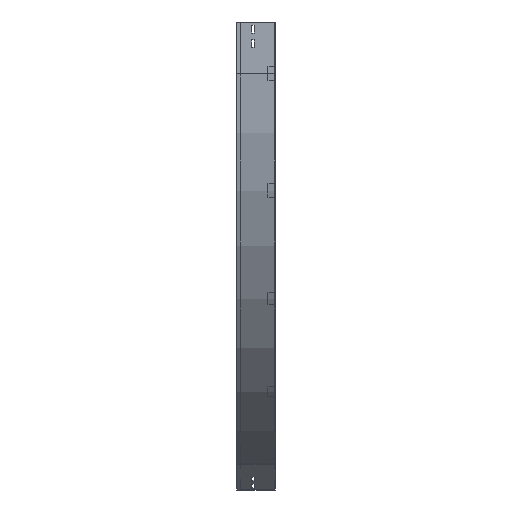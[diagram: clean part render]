
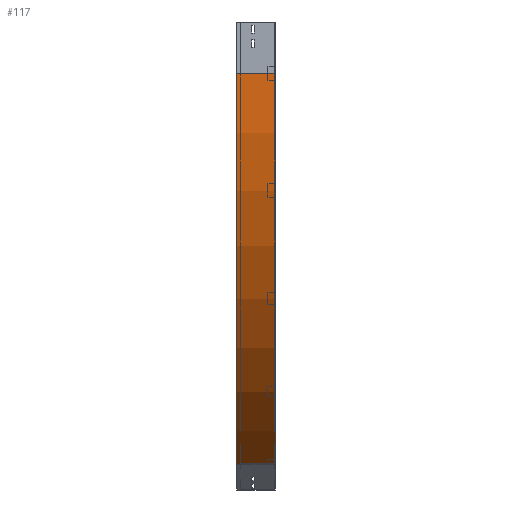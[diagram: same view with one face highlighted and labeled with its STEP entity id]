
A CAD part, left-side view. The second image highlights one B-rep face of the part: STEP entity #117.
In plain terms, the highlighted cylindrical face has radius 1300 mm (diameter 2600 mm), a partial arc.
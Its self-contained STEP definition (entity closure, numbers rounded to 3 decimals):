
#68 = DIRECTION ( 'NONE',  ( 0., -1., 0. ) ) ;
#85 = DIRECTION ( 'NONE',  ( 0., 0., -1. ) ) ;
#117 = ADVANCED_FACE ( 'NONE', ( #711 ), #1321, .T. ) ;
#129 = CARTESIAN_POINT ( 'NONE',  ( 0., 0., -150. ) ) ;
#461 = CARTESIAN_POINT ( 'NONE',  ( 650., 0., -1275.833 ) ) ;
#518 = ORIENTED_EDGE ( 'NONE', *, *, #2481, .F. ) ;
#580 = DIRECTION ( 'NONE',  ( 0., -1., 0. ) ) ;
#696 = CIRCLE ( 'NONE', #2446, 1300. ) ;
#711 = FACE_OUTER_BOUND ( 'NONE', #3734, .T. ) ;
#817 = CARTESIAN_POINT ( 'NONE',  ( 1300., 0., -150. ) ) ;
#917 = AXIS2_PLACEMENT_3D ( 'NONE', #817, #580, #2956 ) ;
#1004 = ORIENTED_EDGE ( 'NONE', *, *, #2428, .F. ) ;
#1321 = CYLINDRICAL_SURFACE ( 'NONE', #2279, 1300. ) ;
#1393 = LINE ( 'NONE', #461, #2706 ) ;
#1396 = ORIENTED_EDGE ( 'NONE', *, *, #2030, .T. ) ;
#1429 = VERTEX_POINT ( 'NONE', #2778 ) ;
#1488 = VERTEX_POINT ( 'NONE', #2929 ) ;
#1807 = DIRECTION ( 'NONE',  ( 0., -1., 0. ) ) ;
#2030 = EDGE_CURVE ( 'NONE', #1488, #3616, #696, .T. ) ;
#2152 = DIRECTION ( 'NONE',  ( -1., 0., 0. ) ) ;
#2172 = EDGE_CURVE ( 'NONE', #3616, #1429, #1393, .T. ) ;
#2260 = CARTESIAN_POINT ( 'NONE',  ( 650., 112.5, -1275.833 ) ) ;
#2279 = AXIS2_PLACEMENT_3D ( 'NONE', #3685, #2476, #85 ) ;
#2428 = EDGE_CURVE ( 'NONE', #2663, #1429, #2617, .T. ) ;
#2446 = AXIS2_PLACEMENT_3D ( 'NONE', #3563, #1807, #2152 ) ;
#2476 = DIRECTION ( 'NONE',  ( 0., -1., 0. ) ) ;
#2481 = EDGE_CURVE ( 'NONE', #1488, #2663, #3303, .T. ) ;
#2563 = DIRECTION ( 'NONE',  ( 0., -1., 0. ) ) ;
#2617 = CIRCLE ( 'NONE', #917, 1300. ) ;
#2663 = VERTEX_POINT ( 'NONE', #129 ) ;
#2706 = VECTOR ( 'NONE', #2563, 1000. ) ;
#2778 = CARTESIAN_POINT ( 'NONE',  ( 650., 0., -1275.833 ) ) ;
#2929 = CARTESIAN_POINT ( 'NONE',  ( 0., 112.5, -150. ) ) ;
#2956 = DIRECTION ( 'NONE',  ( -1., 0., 0. ) ) ;
#3300 = VECTOR ( 'NONE', #68, 1000. ) ;
#3303 = LINE ( 'NONE', #3358, #3300 ) ;
#3358 = CARTESIAN_POINT ( 'NONE',  ( 0., 0., -150. ) ) ;
#3563 = CARTESIAN_POINT ( 'NONE',  ( 1300., 112.5, -150. ) ) ;
#3578 = ORIENTED_EDGE ( 'NONE', *, *, #2172, .T. ) ;
#3616 = VERTEX_POINT ( 'NONE', #2260 ) ;
#3685 = CARTESIAN_POINT ( 'NONE',  ( 1300., 0., -150. ) ) ;
#3734 = EDGE_LOOP ( 'NONE', ( #1004, #518, #1396, #3578 ) ) ;
